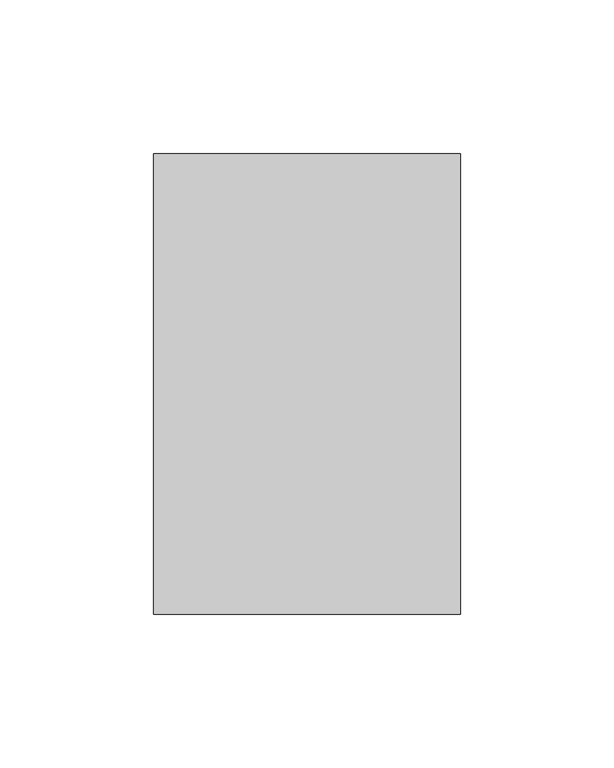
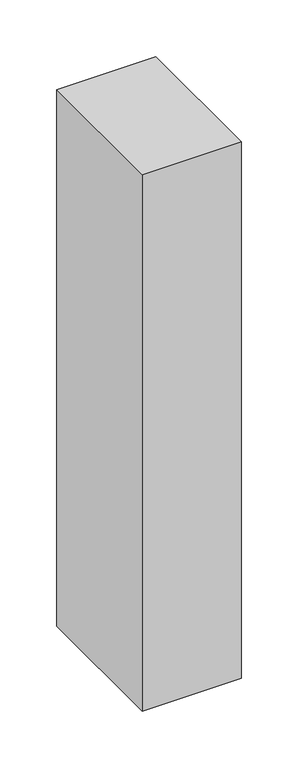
"""IFC4 building model written with IfcOpenShell, lengths in millimetres: member geometry, 矩形竖梃 : 教学楼 – 矩形竖梃 – 100x150mm."""

from ifc_helpers import new_model, si_unit, frame, origin, place, context, project, spatial, polyline, outline, extrude, source, transform, mapped, element, save


def member_fbd0fd80(model_context):
    return source(origin(), model_context, "Body", "SweptSolid", [
        extrude(outline(polyline([(0.0, 75.0), (0.0, -75.0), (-100.0, -75.0), (-100.0, 75.0), (0.0, 75.0)])), frame((0.0, 0.0, -575.0), z_axis=(0.0, 0.0, 1.0), x_axis=(1.0, 0.0, 0.0)), (0.0, 0.0, 1.0), 575.0),
    ])


if __name__ == "__main__":
    model = new_model("IFC4")
    model_context = context("Model", 3, world=origin())
    ifc_project = project(units=[si_unit("LENGTHUNIT", "METRE", prefix="MILLI")], contexts=[model_context])
    site = spatial("IfcSite", under=ifc_project)
    building = spatial("IfcBuilding", under=site)
    placement = place(None, origin())
    member_shape = member_fbd0fd80(model_context)
    element("IfcMember", 1, ObjectType="矩形竖梃 : 教学楼 – 矩形竖梃 – 100x150mm", at=placement, inside=building, context=model_context, shape_type="MappedRepresentation", body=[
        mapped(member_shape, transform((0.0, 0.0, 0.0), x_axis=(1.0, 0.0, 0.0), y_axis=(0.0, 1.0, 0.0), z_axis=(0.0, 0.0, 1.0))),
    ])
    save(model, "model.ifc")
